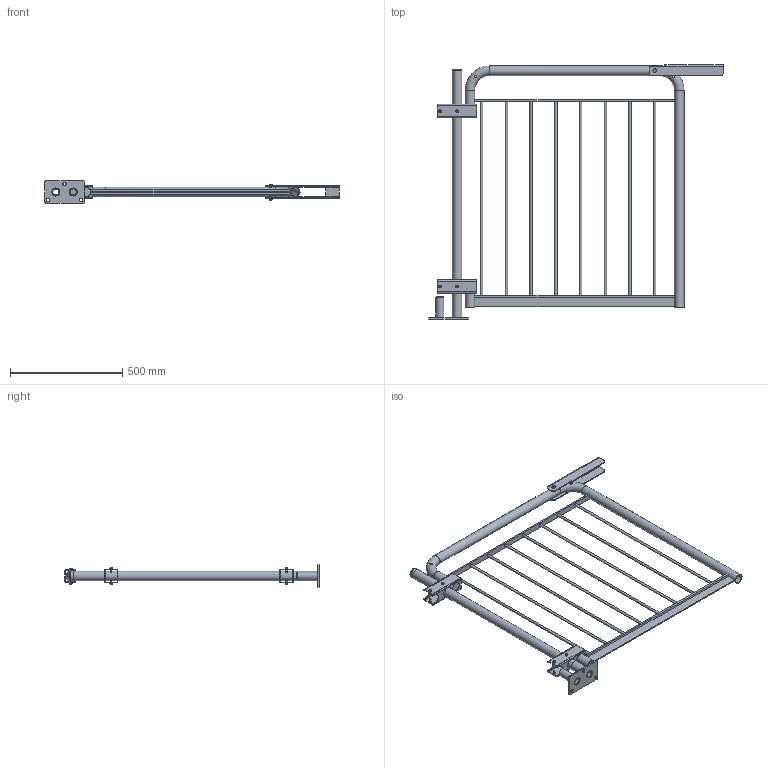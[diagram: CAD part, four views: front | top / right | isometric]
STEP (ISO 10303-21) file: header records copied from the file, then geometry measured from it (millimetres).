
FILE_DESCRIPTION((''),'2;1');
FILE_NAME('S:\Användarkataloger\AndreasA\Mina Inventor filer\Räcken\STEP\grind_bos_topp_1050.stp','2010-09-07T14:03:44',('AndreasA'),(''),'Autodesk Inventor 2011','Autodesk Inventor 2011','');
FILE_SCHEMA(('AUTOMOTIVE_DESIGN { 1 0 10303 214 1 1 1 1 }'));
Length unit declared in the file: millimetre
Products named in the file (18): grind_bos_topp_1050; stolpe_grind_1100; ändavslutare_42,4x2; gångjärn_grind; grindbåge_bos_1050; rör_grindbåge_bos_1050; galleri_grindbåge_1050; pls_grindbåge_1050; rör_grindbåge_bos_122; låsbygel_grind; fäste_R4; bricka_r4; rör_fäste_r3_r4; Bolted Connection; SS 3576 8; ISO 4014 M8 x 65; ISO 4032 M8; Hex Flange Head Tapping Screw - Type T - Metric M6x1 x 16
Assembly tree (27 placements, depth 3):
  grind_bos_topp_1050
    stolpe_grind_1100
    ändavslutare_42,4x2
    gångjärn_grind  x2
    grindbåge_bos_1050
      rör_grindbåge_bos_1050
      galleri_grindbåge_1050
      pls_grindbåge_1050
      rör_grindbåge_bos_122
    låsbygel_grind
    fäste_R4
      bricka_r4
      rör_fäste_r3_r4  x2
    Bolted Connection
      SS 3576 8  x2
      ISO 4014 M8 x 65
      ISO 4032 M8
    Hex Flange Head Tapping Screw - Type T - Metric M6x1 x 16  x8
Bounding box: 1311.2 x 1133 x 100 mm (x, y, z)
Volume: 2569322.4 mm3; surface area: 1583829.9 mm2
Topology: 24 solids, 24 shells, 399 faces, 905 edges, 563 vertices
Faces by surface type: plane 191, cylinder 102, cone 79, torus 21, bspline 6
Full cylindrical faces by diameter (mm): 6 x8, 6.647 x1, 7 x8, 8 x1, 8.4 x2, 10 x8, 11 x8, 11.63 x1, 14.5 x3, 16 x2, 27 x2, 35 x2, 36 x2, 38.4 x6, 42.4 x6, 45 x6
Entity records: 7284 total; most frequent: CARTESIAN_POINT 1974, DIRECTION 1044, ORIENTED_EDGE 868, EDGE_CURVE 434, AXIS2_PLACEMENT_3D 420, EDGE_LOOP 354, VERTEX_POINT 312, FACE_OUTER_BOUND 217
